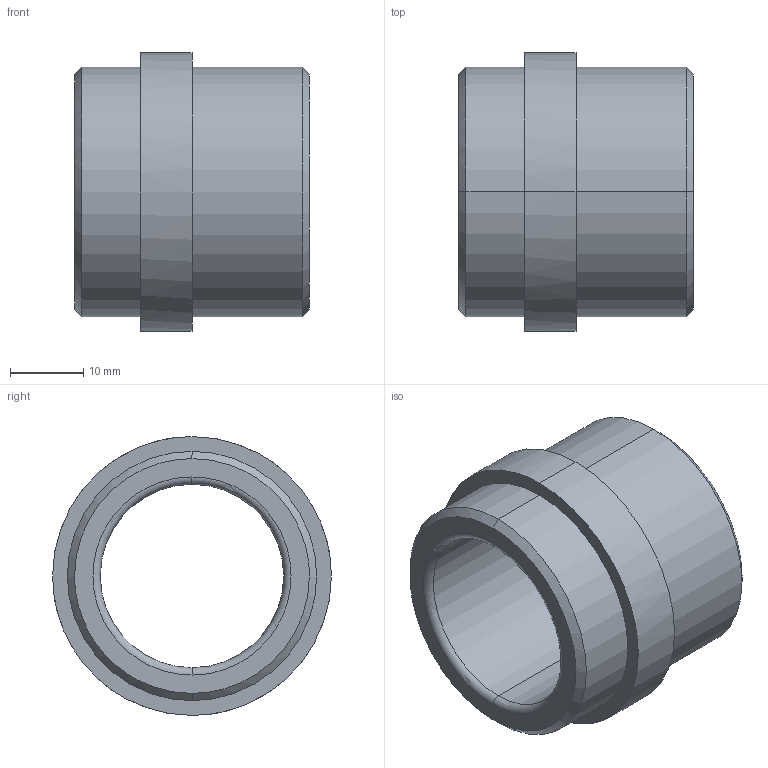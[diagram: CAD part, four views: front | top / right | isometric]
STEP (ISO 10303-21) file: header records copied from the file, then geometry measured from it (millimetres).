
FILE_DESCRIPTION(('CATIA V5 STEP Exchange'),'2;1');
FILE_NAME('C:\Users\Utente\Desktop\IO LAVORO\3D X SITO CF\X SITO\PLASTICA\354\354-25X32.stp','2021-04-21T08:45:55+00:00',('none'),('none'),'CATIA Version 5 Release 20 GA (IN-10)','CATIA V5 STEP AP203','none');
FILE_SCHEMA(('CONFIG_CONTROL_DESIGN'));
Length unit declared in the file: millimetre
Products named in the file (1): 354-25X32
Bounding box: 32 x 38 x 38 mm (x, y, z)
Volume: 14789.8 mm3; surface area: 7111.5 mm2
Topology: 1 solids, 1 shells, 20 faces, 64 edges, 48 vertices
Faces by surface type: cylinder 8, plane 4, cone 4, torus 4
Entity records: 906 total; most frequent: CARTESIAN_POINT 301, ORIENTED_EDGE 128, DIRECTION 92, EDGE_CURVE 64, AXIS2_PLACEMENT_3D 61, VERTEX_POINT 48, CIRCLE 40, EDGE_LOOP 24
